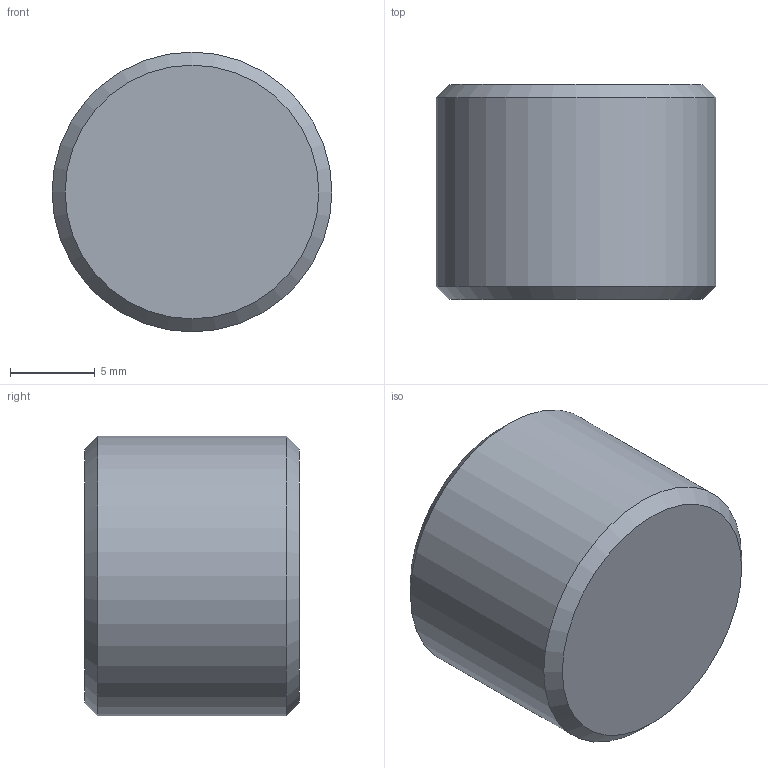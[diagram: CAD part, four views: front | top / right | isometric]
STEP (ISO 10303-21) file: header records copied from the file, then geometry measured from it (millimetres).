
FILE_DESCRIPTION(/* description */ (''),/* implementation_level */ '2;1');
FILE_NAME(/* name */ 'C:/Users/drich/Desktop/cad/Plugs/NPT Pipe Plugs/Dry Seal 3_4 Taper/Stainless Steel/SSD-38 v1.step',/* time_stamp */ '2020-01-10T11:34:44-06:00',/* author */ (''),/* organization */ (''),/* preprocessor_version */ 'ST-DEVELOPER v18',/* originating_system */ 'Autodesk Translation Framework v8.12.0.6',/* authorisation */ '');
FILE_SCHEMA (('AUTOMOTIVE_DESIGN { 1 0 10303 214 3 1 1 }'));
Length unit declared in the file: inch
Products named in the file (1): SSD-38
Bounding box: 16.54 x 12.7 x 16.54 mm (x, y, z)
Volume: 2317.5 mm3; surface area: 1218.3 mm2
Topology: 1 solids, 1 shells, 13 faces, 35 edges, 25 vertices
Faces by surface type: plane 9, cone 3, cylinder 1
Full cylindrical faces by diameter (mm): 16.537 x1
Entity records: 439 total; most frequent: CARTESIAN_POINT 98, ORIENTED_EDGE 70, DIRECTION 58, EDGE_CURVE 35, VERTEX_POINT 25, AXIS2_PLACEMENT_3D 21, LINE 16, VECTOR 16
